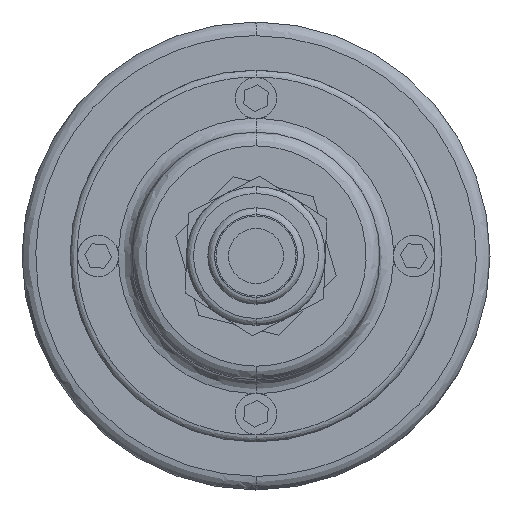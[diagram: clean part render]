
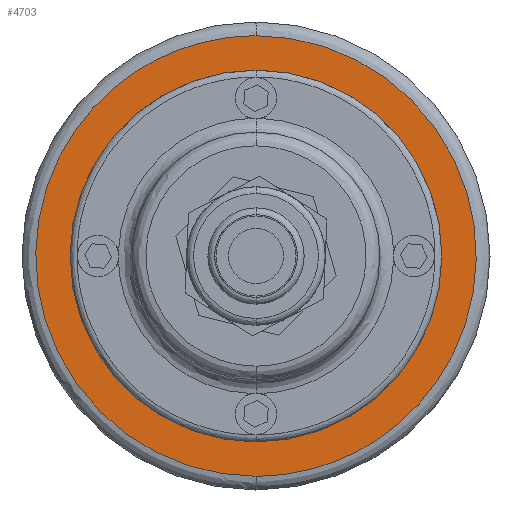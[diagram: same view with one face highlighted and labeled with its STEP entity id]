
A CAD part, front view. The second image highlights one B-rep face of the part: STEP entity #4703.
In plain terms, the highlighted planar face has unit normal (0, -1, 0) as drawn and (0, 1, 0) by its records, which use the part's own axes.
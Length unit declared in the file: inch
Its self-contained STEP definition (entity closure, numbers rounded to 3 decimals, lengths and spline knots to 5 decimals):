
#277 = DIRECTION ( 'NONE',  ( 0., 1., 0. ) ) ;
#558 = EDGE_LOOP ( 'NONE', ( #1500, #2204 ) ) ;
#691 = VERTEX_POINT ( 'NONE', #1459 ) ;
#1280 = EDGE_LOOP ( 'NONE', ( #3797, #2789 ) ) ;
#1459 = CARTESIAN_POINT ( 'NONE',  ( 0., 6.92, 1.35 ) ) ;
#1500 = ORIENTED_EDGE ( 'NONE', *, *, #9112, .F. ) ;
#1654 = AXIS2_PLACEMENT_3D ( 'NONE', #7667, #277, #5465 ) ;
#1982 = DIRECTION ( 'NONE',  ( 0., -1., 0. ) ) ;
#2204 = ORIENTED_EDGE ( 'NONE', *, *, #5823, .F. ) ;
#2393 = CARTESIAN_POINT ( 'NONE',  ( 0., 6.92, -1.6 ) ) ;
#2525 = DIRECTION ( 'NONE',  ( 0., -1., 0. ) ) ;
#2593 = CARTESIAN_POINT ( 'NONE',  ( 0., 6.92, -1.35 ) ) ;
#2606 = AXIS2_PLACEMENT_3D ( 'NONE', #6391, #1982, #7133 ) ;
#2789 = ORIENTED_EDGE ( 'NONE', *, *, #5343, .T. ) ;
#3171 = CARTESIAN_POINT ( 'NONE',  ( 0., 6.92, -1.6 ) ) ;
#3480 = VERTEX_POINT ( 'NONE', #8401 ) ;
#3797 = ORIENTED_EDGE ( 'NONE', *, *, #8232, .T. ) ;
#3864 = CARTESIAN_POINT ( 'NONE',  ( 3.2, 6.92, 1.6 ) ) ;
#4676 = CARTESIAN_POINT ( 'NONE',  ( 0., 6.92, 1.6 ) ) ;
#4703 = ADVANCED_FACE ( 'NONE', ( #7303, #7533 ), #6930, .T. ) ;
#4715 = AXIS2_PLACEMENT_3D ( 'NONE', #6929, #2525, #7666 ) ;
#5343 = EDGE_CURVE ( 'NONE', #691, #5969, #6733, .T. ) ;
#5465 = DIRECTION ( 'NONE',  ( 0., 0., 1. ) ) ;
#5689 = CARTESIAN_POINT ( 'NONE',  ( 0., 6.92, 1.6 ) ) ;
#5823 = EDGE_CURVE ( 'NONE', #8656, #3480, #8156, .T. ) ;
#5969 = VERTEX_POINT ( 'NONE', #2593 ) ;
#6391 = CARTESIAN_POINT ( 'NONE',  ( 0., 6.92, 0. ) ) ;
#6733 = CIRCLE ( 'NONE', #4715, 1.35 ) ;
#6782 = CARTESIAN_POINT ( 'NONE',  ( 3.2, 6.92, -1.6 ) ) ;
#6929 = CARTESIAN_POINT ( 'NONE',  ( 0., 6.92, 0. ) ) ;
#6930 = PLANE ( 'NONE',  #1654 ) ;
#7133 = DIRECTION ( 'NONE',  ( 0., 0., -1. ) ) ;
#7303 = FACE_BOUND ( 'NONE', #1280, .T. ) ;
#7533 = FACE_OUTER_BOUND ( 'NONE', #558, .T. ) ;
#7573 = CARTESIAN_POINT ( 'NONE',  ( -3.2, 6.92, -1.6 ) ) ;
#7666 = DIRECTION ( 'NONE',  ( 0., 0., -1. ) ) ;
#7667 = CARTESIAN_POINT ( 'NONE',  ( 0., 6.92, 0. ) ) ;
#7727 = CIRCLE ( 'NONE', #2606, 1.35 ) ;
#8156 =( BOUNDED_CURVE ( )  B_SPLINE_CURVE ( 3, ( #4676, #8963, #7573, #3171 ),
 .UNSPECIFIED., .F., .F. ) 
 B_SPLINE_CURVE_WITH_KNOTS ( ( 4, 4 ),
 ( 0., 1. ),
 .UNSPECIFIED. ) 
 CURVE ( )  GEOMETRIC_REPRESENTATION_ITEM ( )  RATIONAL_B_SPLINE_CURVE ( ( 1., 0.333, 0.333, 1. ) ) 
 REPRESENTATION_ITEM ( '' )  );
#8192 =( BOUNDED_CURVE ( )  B_SPLINE_CURVE ( 3, ( #2393, #6782, #3864, #8959 ),
 .UNSPECIFIED., .F., .F. ) 
 B_SPLINE_CURVE_WITH_KNOTS ( ( 4, 4 ),
 ( 0., 1. ),
 .UNSPECIFIED. ) 
 CURVE ( )  GEOMETRIC_REPRESENTATION_ITEM ( )  RATIONAL_B_SPLINE_CURVE ( ( 1., 0.333, 0.333, 1. ) ) 
 REPRESENTATION_ITEM ( '' )  );
#8232 = EDGE_CURVE ( 'NONE', #5969, #691, #7727, .T. ) ;
#8401 = CARTESIAN_POINT ( 'NONE',  ( 0., 6.92, -1.6 ) ) ;
#8656 = VERTEX_POINT ( 'NONE', #5689 ) ;
#8959 = CARTESIAN_POINT ( 'NONE',  ( 0., 6.92, 1.6 ) ) ;
#8963 = CARTESIAN_POINT ( 'NONE',  ( -3.2, 6.92, 1.6 ) ) ;
#9112 = EDGE_CURVE ( 'NONE', #3480, #8656, #8192, .T. ) ;
